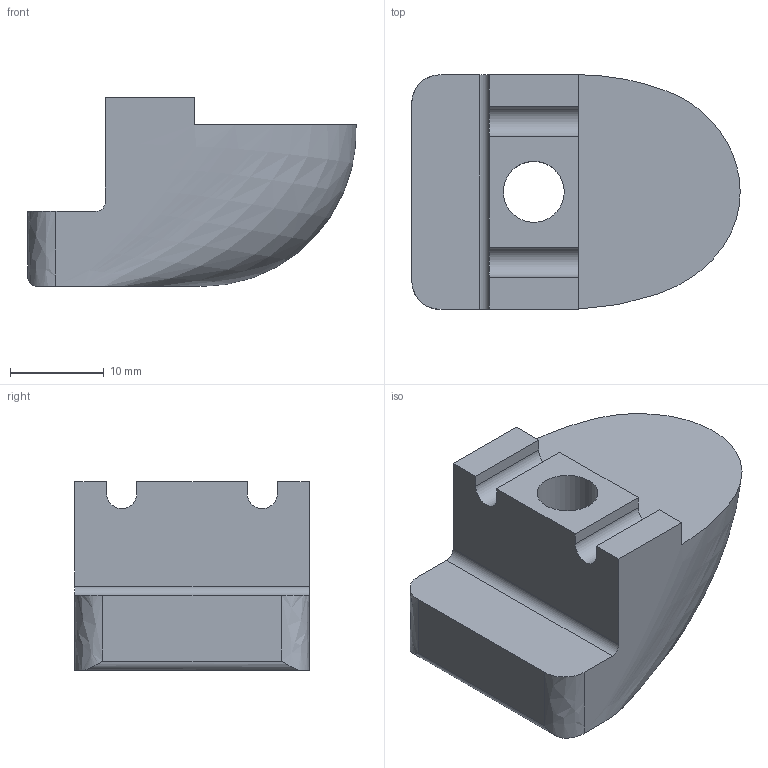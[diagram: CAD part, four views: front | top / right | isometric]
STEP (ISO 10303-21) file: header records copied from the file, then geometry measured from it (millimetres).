
FILE_DESCRIPTION (( 'STEP AP214' ), '1' );
FILE_NAME ('L19133B.step', '2024-12-03T16:22:32', ( '' ), ( '' ), 'SwSTEP 2.0', 'SolidWorks 2023', '' );
FILE_SCHEMA (( 'AUTOMOTIVE_DESIGN' ));
Length unit declared in the file: millimetre
Products named in the file (1): L19133B
Bounding box: 35 x 25 x 20.15 mm (x, y, z)
Volume: 9448.5 mm3; surface area: 3566 mm2
Topology: 1 solids, 1 shells, 32 faces, 87 edges, 57 vertices
Faces by surface type: plane 23, cylinder 5, bspline 4
Full cylindrical faces by diameter (mm): 6.5 x1
Entity records: 1612 total; most frequent: CARTESIAN_POINT 804, ORIENTED_EDGE 170, DIRECTION 150, EDGE_CURVE 85, LINE 56, VECTOR 56, VERTEX_POINT 56, AXIS2_PLACEMENT_3D 47
